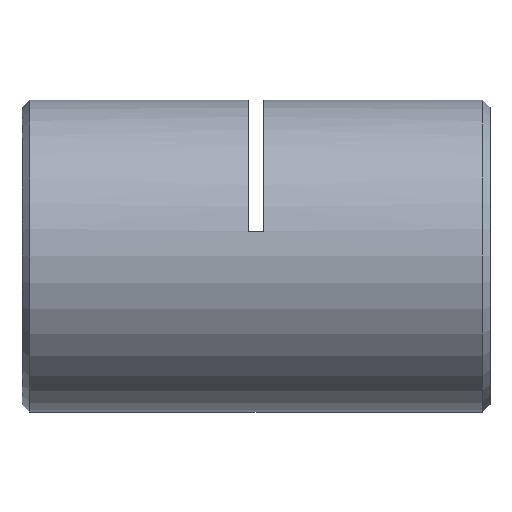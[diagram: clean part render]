
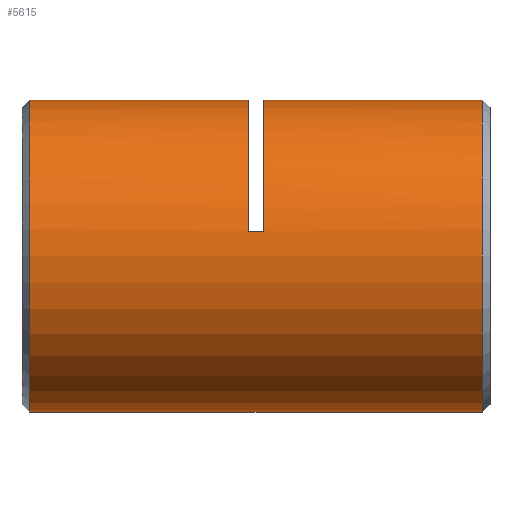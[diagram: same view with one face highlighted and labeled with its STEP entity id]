
A CAD part, left-side view. The second image highlights one B-rep face of the part: STEP entity #5615.
In plain terms, the highlighted cylindrical face has radius 8 mm (diameter 16 mm), a partial arc.
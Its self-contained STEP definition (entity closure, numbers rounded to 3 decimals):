
#345 = VERTEX_POINT ( 'NONE', #2868 ) ;
#358 = CARTESIAN_POINT ( 'NONE',  ( 0., 0.25, -8. ) ) ;
#403 = ORIENTED_EDGE ( 'NONE', *, *, #4415, .T. ) ;
#517 = VERTEX_POINT ( 'NONE', #3591 ) ;
#689 = CARTESIAN_POINT ( 'NONE',  ( 0., 0.25, 8. ) ) ;
#693 = EDGE_CURVE ( 'NONE', #5926, #4627, #1345, .T. ) ;
#715 = DIRECTION ( 'NONE',  ( 0., 1., 0. ) ) ;
#966 = CARTESIAN_POINT ( 'NONE',  ( 0., 0.25, 8. ) ) ;
#977 = DIRECTION ( 'NONE',  ( 0., 1., 0. ) ) ;
#984 = CARTESIAN_POINT ( 'NONE',  ( 0., 12.65, 0. ) ) ;
#991 = VERTEX_POINT ( 'NONE', #5454 ) ;
#1076 = LINE ( 'NONE', #689, #2876 ) ;
#1158 = ORIENTED_EDGE ( 'NONE', *, *, #5547, .F. ) ;
#1161 = CARTESIAN_POINT ( 'NONE',  ( 0., 0.65, 0. ) ) ;
#1318 = CYLINDRICAL_SURFACE ( 'NONE', #6630, 8. ) ;
#1345 = LINE ( 'NONE', #3305, #4936 ) ;
#1838 = CIRCLE ( 'NONE', #6196, 8. ) ;
#1940 = CARTESIAN_POINT ( 'NONE',  ( 0., 0.65, -8. ) ) ;
#1994 = LINE ( 'NONE', #358, #4360 ) ;
#2026 = DIRECTION ( 'NONE',  ( 0., -1., 0. ) ) ;
#2156 = EDGE_CURVE ( 'NONE', #345, #517, #3207, .T. ) ;
#2510 = DIRECTION ( 'NONE',  ( 0., 1., 0. ) ) ;
#2520 = DIRECTION ( 'NONE',  ( 0., 0., 1. ) ) ;
#2535 = CARTESIAN_POINT ( 'NONE',  ( 0., 0.25, 0. ) ) ;
#2731 = DIRECTION ( 'NONE',  ( 0., 0., 1. ) ) ;
#2868 = CARTESIAN_POINT ( 'NONE',  ( 0., 12.65, 8. ) ) ;
#2876 = VECTOR ( 'NONE', #715, 1000. ) ;
#2906 = AXIS2_PLACEMENT_3D ( 'NONE', #6698, #2510, #6175 ) ;
#3036 = CIRCLE ( 'NONE', #6465, 8. ) ;
#3095 = CIRCLE ( 'NONE', #2906, 8. ) ;
#3207 = LINE ( 'NONE', #966, #4855 ) ;
#3305 = CARTESIAN_POINT ( 'NONE',  ( -7.897, 12.25, 1.28 ) ) ;
#3323 = EDGE_CURVE ( 'NONE', #517, #991, #5003, .T. ) ;
#3417 = EDGE_CURVE ( 'NONE', #4627, #345, #1838, .T. ) ;
#3591 = CARTESIAN_POINT ( 'NONE',  ( 0., 23.85, 8. ) ) ;
#3629 = ORIENTED_EDGE ( 'NONE', *, *, #2156, .T. ) ;
#3633 = CARTESIAN_POINT ( 'NONE',  ( 0., 23.85, 0. ) ) ;
#3702 = CARTESIAN_POINT ( 'NONE',  ( 0., 11.85, 8. ) ) ;
#3763 = FACE_OUTER_BOUND ( 'NONE', #6189, .T. ) ;
#4114 = AXIS2_PLACEMENT_3D ( 'NONE', #3633, #2026, #6657 ) ;
#4360 = VECTOR ( 'NONE', #4476, 1000. ) ;
#4384 = CARTESIAN_POINT ( 'NONE',  ( -7.897, 11.85, 1.28 ) ) ;
#4392 = DIRECTION ( 'NONE',  ( 0., 1., 0. ) ) ;
#4415 = EDGE_CURVE ( 'NONE', #4652, #5110, #3036, .T. ) ;
#4476 = DIRECTION ( 'NONE',  ( 0., 1., 0. ) ) ;
#4589 = EDGE_CURVE ( 'NONE', #4652, #991, #1994, .T. ) ;
#4627 = VERTEX_POINT ( 'NONE', #4962 ) ;
#4652 = VERTEX_POINT ( 'NONE', #1940 ) ;
#4668 = ORIENTED_EDGE ( 'NONE', *, *, #693, .T. ) ;
#4855 = VECTOR ( 'NONE', #6168, 1000. ) ;
#4911 = VERTEX_POINT ( 'NONE', #3702 ) ;
#4936 = VECTOR ( 'NONE', #4392, 1000. ) ;
#4962 = CARTESIAN_POINT ( 'NONE',  ( -7.897, 12.65, 1.28 ) ) ;
#5003 = CIRCLE ( 'NONE', #4114, 8. ) ;
#5110 = VERTEX_POINT ( 'NONE', #6421 ) ;
#5324 = EDGE_CURVE ( 'NONE', #5110, #4911, #1076, .T. ) ;
#5454 = CARTESIAN_POINT ( 'NONE',  ( 0., 23.85, -8. ) ) ;
#5539 = ORIENTED_EDGE ( 'NONE', *, *, #3323, .T. ) ;
#5547 = EDGE_CURVE ( 'NONE', #5926, #4911, #3095, .T. ) ;
#5603 = DIRECTION ( 'NONE',  ( 0., 1., 0. ) ) ;
#5615 = ADVANCED_FACE ( 'NONE', ( #3763 ), #1318, .T. ) ;
#5674 = ORIENTED_EDGE ( 'NONE', *, *, #4589, .F. ) ;
#5926 = VERTEX_POINT ( 'NONE', #4384 ) ;
#5988 = ORIENTED_EDGE ( 'NONE', *, *, #5324, .T. ) ;
#6168 = DIRECTION ( 'NONE',  ( 0., 1., 0. ) ) ;
#6175 = DIRECTION ( 'NONE',  ( 0., 0., 1. ) ) ;
#6189 = EDGE_LOOP ( 'NONE', ( #5674, #403, #5988, #1158, #4668, #6656, #3629, #5539 ) ) ;
#6196 = AXIS2_PLACEMENT_3D ( 'NONE', #984, #5603, #2520 ) ;
#6338 = DIRECTION ( 'NONE',  ( 0., 1., 0. ) ) ;
#6421 = CARTESIAN_POINT ( 'NONE',  ( 0., 0.65, 8. ) ) ;
#6465 = AXIS2_PLACEMENT_3D ( 'NONE', #1161, #6338, #2731 ) ;
#6605 = DIRECTION ( 'NONE',  ( 0., 0., 1. ) ) ;
#6630 = AXIS2_PLACEMENT_3D ( 'NONE', #2535, #977, #6605 ) ;
#6656 = ORIENTED_EDGE ( 'NONE', *, *, #3417, .T. ) ;
#6657 = DIRECTION ( 'NONE',  ( 0., 0., -1. ) ) ;
#6698 = CARTESIAN_POINT ( 'NONE',  ( 0., 11.85, 0. ) ) ;
